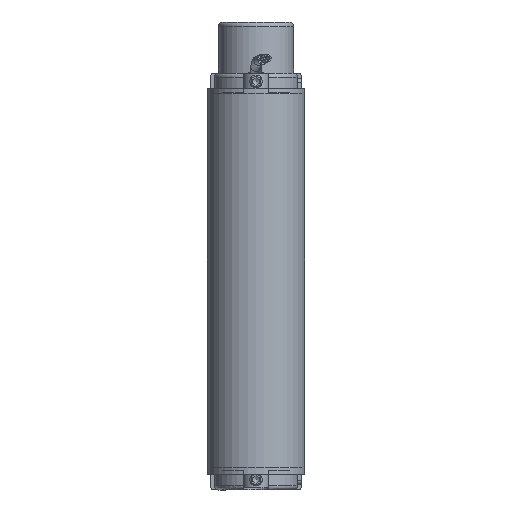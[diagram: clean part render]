
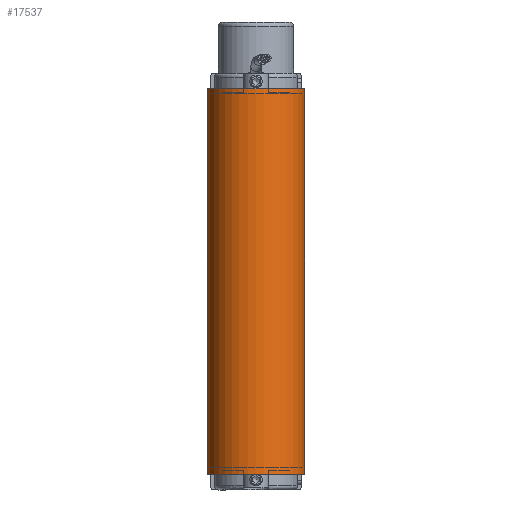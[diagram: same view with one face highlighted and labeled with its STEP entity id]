
A CAD part, front view. The second image highlights one B-rep face of the part: STEP entity #17537.
In plain terms, the highlighted cylindrical face has radius 23.3 mm (diameter 46.6 mm), a partial arc.
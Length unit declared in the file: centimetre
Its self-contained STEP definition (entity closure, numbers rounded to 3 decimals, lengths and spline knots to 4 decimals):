
#1364=FACE_OUTER_BOUND('',#2345,.T.);
#2345=EDGE_LOOP('',(#12475,#12476,#12477,#12478));
#3388=CIRCLE('',#18825,2.33);
#3390=CIRCLE('',#18829,2.33);
#4381=LINE('',#27146,#5746);
#4382=LINE('',#27150,#5747);
#5746=VECTOR('',#21588,1.);
#5747=VECTOR('',#21593,1.);
#7268=VERTEX_POINT('',#27101);
#7269=VERTEX_POINT('',#27103);
#7288=VERTEX_POINT('',#27144);
#7289=VERTEX_POINT('',#27148);
#9214=EDGE_CURVE('',#7269,#7268,#3388,.T.);
#9236=EDGE_CURVE('',#7288,#7268,#4381,.T.);
#9237=EDGE_CURVE('',#7288,#7289,#3390,.T.);
#9238=EDGE_CURVE('',#7269,#7289,#4382,.T.);
#12475=ORIENTED_EDGE('',*,*,#9214,.T.);
#12476=ORIENTED_EDGE('',*,*,#9236,.F.);
#12477=ORIENTED_EDGE('',*,*,#9237,.T.);
#12478=ORIENTED_EDGE('',*,*,#9238,.F.);
#16139=CYLINDRICAL_SURFACE('',#18828,2.33);
#17537=ADVANCED_FACE('',(#1364),#16139,.T.);
#18825=AXIS2_PLACEMENT_3D('',#27104,#21562,#21563);
#18828=AXIS2_PLACEMENT_3D('',#27147,#21589,#21590);
#18829=AXIS2_PLACEMENT_3D('',#27149,#21591,#21592);
#21562=DIRECTION('center_axis',(0.,0.,
1.));
#21563=DIRECTION('ref_axis',(-1.,0.,0.));
#21588=DIRECTION('',(0.,0.,-1.));
#21589=DIRECTION('center_axis',(0.,0.,
-1.));
#21590=DIRECTION('ref_axis',(-1.,0.,0.));
#21591=DIRECTION('center_axis',(0.,0.,
-1.));
#21592=DIRECTION('ref_axis',(-1.,0.,0.));
#21593=DIRECTION('',(0.,0.,1.));
#27101=CARTESIAN_POINT('',(2.33,-107.,-9.25));
#27103=CARTESIAN_POINT('',(-2.33,-107.,-9.25));
#27104=CARTESIAN_POINT('Origin',(0.,-107.,-9.25));
#27144=CARTESIAN_POINT('',(2.33,-107.,9.25));
#27146=CARTESIAN_POINT('',(2.33,-107.,0.));
#27147=CARTESIAN_POINT('Origin',(0.,-107.,0.));
#27148=CARTESIAN_POINT('',(-2.33,-107.,9.25));
#27149=CARTESIAN_POINT('Origin',(0.,-107.,9.25));
#27150=CARTESIAN_POINT('',(-2.33,-107.,0.));
